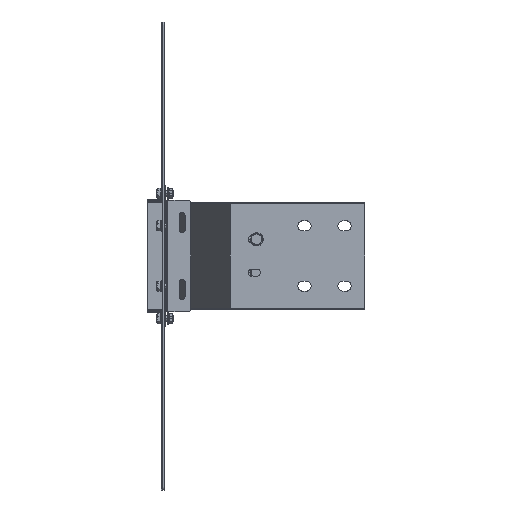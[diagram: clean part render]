
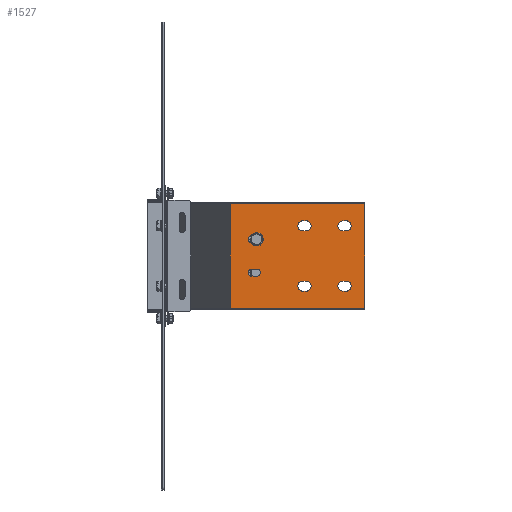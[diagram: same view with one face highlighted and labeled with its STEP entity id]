
A CAD part, front view. The second image highlights one B-rep face of the part: STEP entity #1527.
In plain terms, the highlighted planar face has unit normal (0, -1, 0).
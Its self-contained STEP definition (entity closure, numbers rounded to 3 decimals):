
#1283=AXIS2_PLACEMENT_3D('Circle Axis2P3D',#1281,#1282,$) ;
#1303=AXIS2_PLACEMENT_3D('Plane Axis2P3D',#1300,#1301,#1302) ;
#1341=AXIS2_PLACEMENT_3D('Circle Axis2P3D',#1339,#1340,$) ;
#1359=AXIS2_PLACEMENT_3D('Circle Axis2P3D',#1357,#1358,$) ;
#1375=AXIS2_PLACEMENT_3D('Circle Axis2P3D',#1373,#1374,$) ;
#1393=AXIS2_PLACEMENT_3D('Circle Axis2P3D',#1391,#1392,$) ;
#1409=AXIS2_PLACEMENT_3D('Circle Axis2P3D',#1407,#1408,$) ;
#1436=AXIS2_PLACEMENT_3D('Circle Axis2P3D',#1434,#1435,$) ;
#1450=AXIS2_PLACEMENT_3D('Circle Axis2P3D',#1448,#1449,$) ;
#1461=AXIS2_PLACEMENT_3D('Circle Axis2P3D',#1459,#1460,$) ;
#1477=AXIS2_PLACEMENT_3D('Circle Axis2P3D',#1475,#1476,$) ;
#1495=AXIS2_PLACEMENT_3D('Circle Axis2P3D',#1493,#1494,$) ;
#1511=AXIS2_PLACEMENT_3D('Circle Axis2P3D',#1509,#1510,$) ;
#1247=CARTESIAN_POINT('Vertex',(212.5,-216.75,52.5)) ;
#1250=CARTESIAN_POINT('Line Origine',(210.,-216.75,52.5)) ;
#1254=CARTESIAN_POINT('Vertex',(207.5,-216.75,52.5)) ;
#1281=CARTESIAN_POINT('Axis2P3D Location',(207.5,-216.75,45.)) ;
#1285=CARTESIAN_POINT('Vertex',(207.5,-216.75,37.5)) ;
#1300=CARTESIAN_POINT('Axis2P3D Location',(300.,-216.75,-78.25)) ;
#1305=CARTESIAN_POINT('Line Origine',(199.425,-216.75,-78.25)) ;
#1309=CARTESIAN_POINT('Vertex',(300.,-216.75,-78.25)) ;
#1311=CARTESIAN_POINT('Vertex',(98.849,-216.75,-78.25)) ;
#1314=CARTESIAN_POINT('Line Origine',(300.,-216.75,0.)) ;
#1318=CARTESIAN_POINT('Vertex',(300.,-216.75,78.25)) ;
#1321=CARTESIAN_POINT('Line Origine',(199.425,-216.75,78.25)) ;
#1325=CARTESIAN_POINT('Vertex',(98.849,-216.75,78.25)) ;
#1328=CARTESIAN_POINT('Line Origine',(98.849,-216.75,0.)) ;
#1339=CARTESIAN_POINT('Axis2P3D Location',(212.5,-216.75,45.)) ;
#1343=CARTESIAN_POINT('Vertex',(212.5,-216.75,37.5)) ;
#1346=CARTESIAN_POINT('Line Origine',(210.,-216.75,37.5)) ;
#1357=CARTESIAN_POINT('Axis2P3D Location',(272.5,-216.75,45.)) ;
#1361=CARTESIAN_POINT('Vertex',(272.5,-216.75,37.5)) ;
#1363=CARTESIAN_POINT('Vertex',(272.5,-216.75,52.5)) ;
#1366=CARTESIAN_POINT('Line Origine',(270.,-216.75,37.5)) ;
#1370=CARTESIAN_POINT('Vertex',(267.5,-216.75,37.5)) ;
#1373=CARTESIAN_POINT('Axis2P3D Location',(267.5,-216.75,45.)) ;
#1377=CARTESIAN_POINT('Vertex',(267.5,-216.75,52.5)) ;
#1380=CARTESIAN_POINT('Line Origine',(270.,-216.75,52.5)) ;
#1391=CARTESIAN_POINT('Axis2P3D Location',(207.5,-216.75,-45.)) ;
#1395=CARTESIAN_POINT('Vertex',(207.5,-216.75,-37.5)) ;
#1397=CARTESIAN_POINT('Vertex',(207.5,-216.75,-52.5)) ;
#1400=CARTESIAN_POINT('Line Origine',(210.,-216.75,-37.5)) ;
#1404=CARTESIAN_POINT('Vertex',(212.5,-216.75,-37.5)) ;
#1407=CARTESIAN_POINT('Axis2P3D Location',(212.5,-216.75,-45.)) ;
#1411=CARTESIAN_POINT('Vertex',(212.5,-216.75,-52.5)) ;
#1414=CARTESIAN_POINT('Line Origine',(210.,-216.75,-52.5)) ;
#1425=CARTESIAN_POINT('Line Origine',(270.,-216.75,-37.5)) ;
#1429=CARTESIAN_POINT('Vertex',(272.5,-216.75,-37.5)) ;
#1431=CARTESIAN_POINT('Vertex',(267.5,-216.75,-37.5)) ;
#1434=CARTESIAN_POINT('Axis2P3D Location',(272.5,-216.75,-45.)) ;
#1438=CARTESIAN_POINT('Vertex',(272.5,-216.75,-52.5)) ;
#1441=CARTESIAN_POINT('Line Origine',(270.,-216.75,-52.5)) ;
#1445=CARTESIAN_POINT('Vertex',(267.5,-216.75,-52.5)) ;
#1448=CARTESIAN_POINT('Axis2P3D Location',(267.5,-216.75,-45.)) ;
#1459=CARTESIAN_POINT('Axis2P3D Location',(138.5,-216.75,25.)) ;
#1463=CARTESIAN_POINT('Vertex',(138.5,-216.75,19.5)) ;
#1465=CARTESIAN_POINT('Vertex',(138.5,-216.75,30.5)) ;
#1468=CARTESIAN_POINT('Line Origine',(135.,-216.75,19.5)) ;
#1472=CARTESIAN_POINT('Vertex',(131.5,-216.75,19.5)) ;
#1475=CARTESIAN_POINT('Axis2P3D Location',(131.5,-216.75,25.)) ;
#1479=CARTESIAN_POINT('Vertex',(131.5,-216.75,30.5)) ;
#1482=CARTESIAN_POINT('Line Origine',(135.,-216.75,30.5)) ;
#1493=CARTESIAN_POINT('Axis2P3D Location',(131.5,-216.75,-25.)) ;
#1497=CARTESIAN_POINT('Vertex',(131.5,-216.75,-19.5)) ;
#1499=CARTESIAN_POINT('Vertex',(131.5,-216.75,-30.5)) ;
#1502=CARTESIAN_POINT('Line Origine',(135.,-216.75,-19.5)) ;
#1506=CARTESIAN_POINT('Vertex',(138.5,-216.75,-19.5)) ;
#1509=CARTESIAN_POINT('Axis2P3D Location',(138.5,-216.75,-25.)) ;
#1513=CARTESIAN_POINT('Vertex',(138.5,-216.75,-30.5)) ;
#1516=CARTESIAN_POINT('Line Origine',(135.,-216.75,-30.5)) ;
#1251=DIRECTION('Vector Direction',(1.,0.,0.)) ;
#1282=DIRECTION('Axis2P3D Direction',(0.,-1.,0.)) ;
#1301=DIRECTION('Axis2P3D Direction',(0.,-1.,0.)) ;
#1302=DIRECTION('Axis2P3D XDirection',(0.,0.,1.)) ;
#1306=DIRECTION('Vector Direction',(-1.,0.,0.)) ;
#1315=DIRECTION('Vector Direction',(0.,0.,1.)) ;
#1322=DIRECTION('Vector Direction',(-1.,0.,0.)) ;
#1329=DIRECTION('Vector Direction',(0.,0.,1.)) ;
#1340=DIRECTION('Axis2P3D Direction',(0.,-1.,0.)) ;
#1347=DIRECTION('Vector Direction',(-1.,0.,0.)) ;
#1358=DIRECTION('Axis2P3D Direction',(0.,-1.,0.)) ;
#1367=DIRECTION('Vector Direction',(1.,0.,0.)) ;
#1374=DIRECTION('Axis2P3D Direction',(0.,-1.,0.)) ;
#1381=DIRECTION('Vector Direction',(-1.,0.,0.)) ;
#1392=DIRECTION('Axis2P3D Direction',(0.,-1.,0.)) ;
#1401=DIRECTION('Vector Direction',(-1.,0.,0.)) ;
#1408=DIRECTION('Axis2P3D Direction',(0.,-1.,0.)) ;
#1415=DIRECTION('Vector Direction',(1.,0.,0.)) ;
#1426=DIRECTION('Vector Direction',(1.,0.,0.)) ;
#1435=DIRECTION('Axis2P3D Direction',(0.,-1.,0.)) ;
#1442=DIRECTION('Vector Direction',(-1.,0.,0.)) ;
#1449=DIRECTION('Axis2P3D Direction',(0.,-1.,0.)) ;
#1460=DIRECTION('Axis2P3D Direction',(0.,-1.,0.)) ;
#1469=DIRECTION('Vector Direction',(-1.,0.,0.)) ;
#1476=DIRECTION('Axis2P3D Direction',(0.,-1.,0.)) ;
#1483=DIRECTION('Vector Direction',(1.,0.,0.)) ;
#1494=DIRECTION('Axis2P3D Direction',(0.,-1.,0.)) ;
#1503=DIRECTION('Vector Direction',(-1.,0.,0.)) ;
#1510=DIRECTION('Axis2P3D Direction',(0.,-1.,0.)) ;
#1517=DIRECTION('Vector Direction',(1.,0.,0.)) ;
#1252=VECTOR('Line Direction',#1251,1.) ;
#1307=VECTOR('Line Direction',#1306,1.) ;
#1316=VECTOR('Line Direction',#1315,1.) ;
#1323=VECTOR('Line Direction',#1322,1.) ;
#1330=VECTOR('Line Direction',#1329,1.) ;
#1348=VECTOR('Line Direction',#1347,1.) ;
#1368=VECTOR('Line Direction',#1367,1.) ;
#1382=VECTOR('Line Direction',#1381,1.) ;
#1402=VECTOR('Line Direction',#1401,1.) ;
#1416=VECTOR('Line Direction',#1415,1.) ;
#1427=VECTOR('Line Direction',#1426,1.) ;
#1443=VECTOR('Line Direction',#1442,1.) ;
#1470=VECTOR('Line Direction',#1469,1.) ;
#1484=VECTOR('Line Direction',#1483,1.) ;
#1504=VECTOR('Line Direction',#1503,1.) ;
#1518=VECTOR('Line Direction',#1517,1.) ;
#1334=ORIENTED_EDGE('',*,*,#1313,.F.) ;
#1335=ORIENTED_EDGE('',*,*,#1320,.F.) ;
#1336=ORIENTED_EDGE('',*,*,#1327,.T.) ;
#1337=ORIENTED_EDGE('',*,*,#1332,.F.) ;
#1352=ORIENTED_EDGE('',*,*,#1345,.F.) ;
#1353=ORIENTED_EDGE('',*,*,#1350,.F.) ;
#1354=ORIENTED_EDGE('',*,*,#1287,.F.) ;
#1355=ORIENTED_EDGE('',*,*,#1256,.F.) ;
#1386=ORIENTED_EDGE('',*,*,#1365,.F.) ;
#1387=ORIENTED_EDGE('',*,*,#1372,.F.) ;
#1388=ORIENTED_EDGE('',*,*,#1379,.F.) ;
#1389=ORIENTED_EDGE('',*,*,#1384,.F.) ;
#1420=ORIENTED_EDGE('',*,*,#1399,.F.) ;
#1421=ORIENTED_EDGE('',*,*,#1406,.F.) ;
#1422=ORIENTED_EDGE('',*,*,#1413,.F.) ;
#1423=ORIENTED_EDGE('',*,*,#1418,.F.) ;
#1454=ORIENTED_EDGE('',*,*,#1433,.F.) ;
#1455=ORIENTED_EDGE('',*,*,#1440,.F.) ;
#1456=ORIENTED_EDGE('',*,*,#1447,.F.) ;
#1457=ORIENTED_EDGE('',*,*,#1452,.F.) ;
#1488=ORIENTED_EDGE('',*,*,#1467,.F.) ;
#1489=ORIENTED_EDGE('',*,*,#1474,.F.) ;
#1490=ORIENTED_EDGE('',*,*,#1481,.F.) ;
#1491=ORIENTED_EDGE('',*,*,#1486,.F.) ;
#1522=ORIENTED_EDGE('',*,*,#1501,.F.) ;
#1523=ORIENTED_EDGE('',*,*,#1508,.F.) ;
#1524=ORIENTED_EDGE('',*,*,#1515,.F.) ;
#1525=ORIENTED_EDGE('',*,*,#1520,.F.) ;
#1356=FACE_BOUND('',#1351,.T.) ;
#1390=FACE_BOUND('',#1385,.T.) ;
#1424=FACE_BOUND('',#1419,.T.) ;
#1458=FACE_BOUND('',#1453,.T.) ;
#1492=FACE_BOUND('',#1487,.T.) ;
#1526=FACE_BOUND('',#1521,.T.) ;
#1527=ADVANCED_FACE('N',(#1338,#1356,#1390,#1424,#1458,#1492,#1526),#1304,.T.) ;
#1284=CIRCLE('generated circle',#1283,7.5) ;
#1342=CIRCLE('generated circle',#1341,7.5) ;
#1360=CIRCLE('generated circle',#1359,7.5) ;
#1376=CIRCLE('generated circle',#1375,7.5) ;
#1394=CIRCLE('generated circle',#1393,7.5) ;
#1410=CIRCLE('generated circle',#1409,7.5) ;
#1437=CIRCLE('generated circle',#1436,7.5) ;
#1451=CIRCLE('generated circle',#1450,7.5) ;
#1462=CIRCLE('generated circle',#1461,5.5) ;
#1478=CIRCLE('generated circle',#1477,5.5) ;
#1496=CIRCLE('generated circle',#1495,5.5) ;
#1512=CIRCLE('generated circle',#1511,5.5) ;
#1256=EDGE_CURVE('',#1248,#1255,#1253,.F.) ;
#1287=EDGE_CURVE('',#1255,#1286,#1284,.T.) ;
#1313=EDGE_CURVE('',#1310,#1312,#1308,.T.) ;
#1320=EDGE_CURVE('',#1319,#1310,#1317,.F.) ;
#1327=EDGE_CURVE('',#1319,#1326,#1324,.T.) ;
#1332=EDGE_CURVE('',#1312,#1326,#1331,.T.) ;
#1345=EDGE_CURVE('',#1344,#1248,#1342,.T.) ;
#1350=EDGE_CURVE('',#1286,#1344,#1349,.F.) ;
#1365=EDGE_CURVE('',#1362,#1364,#1360,.T.) ;
#1372=EDGE_CURVE('',#1371,#1362,#1369,.T.) ;
#1379=EDGE_CURVE('',#1378,#1371,#1376,.T.) ;
#1384=EDGE_CURVE('',#1364,#1378,#1383,.T.) ;
#1399=EDGE_CURVE('',#1396,#1398,#1394,.T.) ;
#1406=EDGE_CURVE('',#1405,#1396,#1403,.T.) ;
#1413=EDGE_CURVE('',#1412,#1405,#1410,.T.) ;
#1418=EDGE_CURVE('',#1398,#1412,#1417,.T.) ;
#1433=EDGE_CURVE('',#1430,#1432,#1428,.F.) ;
#1440=EDGE_CURVE('',#1439,#1430,#1437,.T.) ;
#1447=EDGE_CURVE('',#1446,#1439,#1444,.F.) ;
#1452=EDGE_CURVE('',#1432,#1446,#1451,.T.) ;
#1467=EDGE_CURVE('',#1464,#1466,#1462,.T.) ;
#1474=EDGE_CURVE('',#1473,#1464,#1471,.F.) ;
#1481=EDGE_CURVE('',#1480,#1473,#1478,.T.) ;
#1486=EDGE_CURVE('',#1466,#1480,#1485,.F.) ;
#1501=EDGE_CURVE('',#1498,#1500,#1496,.T.) ;
#1508=EDGE_CURVE('',#1507,#1498,#1505,.T.) ;
#1515=EDGE_CURVE('',#1514,#1507,#1512,.T.) ;
#1520=EDGE_CURVE('',#1500,#1514,#1519,.T.) ;
#1333=EDGE_LOOP('',(#1334,#1335,#1336,#1337)) ;
#1351=EDGE_LOOP('',(#1352,#1353,#1354,#1355)) ;
#1385=EDGE_LOOP('',(#1386,#1387,#1388,#1389)) ;
#1419=EDGE_LOOP('',(#1420,#1421,#1422,#1423)) ;
#1453=EDGE_LOOP('',(#1454,#1455,#1456,#1457)) ;
#1487=EDGE_LOOP('',(#1488,#1489,#1490,#1491)) ;
#1521=EDGE_LOOP('',(#1522,#1523,#1524,#1525)) ;
#1338=FACE_OUTER_BOUND('',#1333,.T.) ;
#1253=LINE('Line',#1250,#1252) ;
#1308=LINE('Line',#1305,#1307) ;
#1317=LINE('Line',#1314,#1316) ;
#1324=LINE('Line',#1321,#1323) ;
#1331=LINE('Line',#1328,#1330) ;
#1349=LINE('Line',#1346,#1348) ;
#1369=LINE('Line',#1366,#1368) ;
#1383=LINE('Line',#1380,#1382) ;
#1403=LINE('Line',#1400,#1402) ;
#1417=LINE('Line',#1414,#1416) ;
#1428=LINE('Line',#1425,#1427) ;
#1444=LINE('Line',#1441,#1443) ;
#1471=LINE('Line',#1468,#1470) ;
#1485=LINE('Line',#1482,#1484) ;
#1505=LINE('Line',#1502,#1504) ;
#1519=LINE('Line',#1516,#1518) ;
#1304=PLANE('',#1303) ;
#1248=VERTEX_POINT('',#1247) ;
#1255=VERTEX_POINT('',#1254) ;
#1286=VERTEX_POINT('',#1285) ;
#1310=VERTEX_POINT('',#1309) ;
#1312=VERTEX_POINT('',#1311) ;
#1319=VERTEX_POINT('',#1318) ;
#1326=VERTEX_POINT('',#1325) ;
#1344=VERTEX_POINT('',#1343) ;
#1362=VERTEX_POINT('',#1361) ;
#1364=VERTEX_POINT('',#1363) ;
#1371=VERTEX_POINT('',#1370) ;
#1378=VERTEX_POINT('',#1377) ;
#1396=VERTEX_POINT('',#1395) ;
#1398=VERTEX_POINT('',#1397) ;
#1405=VERTEX_POINT('',#1404) ;
#1412=VERTEX_POINT('',#1411) ;
#1430=VERTEX_POINT('',#1429) ;
#1432=VERTEX_POINT('',#1431) ;
#1439=VERTEX_POINT('',#1438) ;
#1446=VERTEX_POINT('',#1445) ;
#1464=VERTEX_POINT('',#1463) ;
#1466=VERTEX_POINT('',#1465) ;
#1473=VERTEX_POINT('',#1472) ;
#1480=VERTEX_POINT('',#1479) ;
#1498=VERTEX_POINT('',#1497) ;
#1500=VERTEX_POINT('',#1499) ;
#1507=VERTEX_POINT('',#1506) ;
#1514=VERTEX_POINT('',#1513) ;
